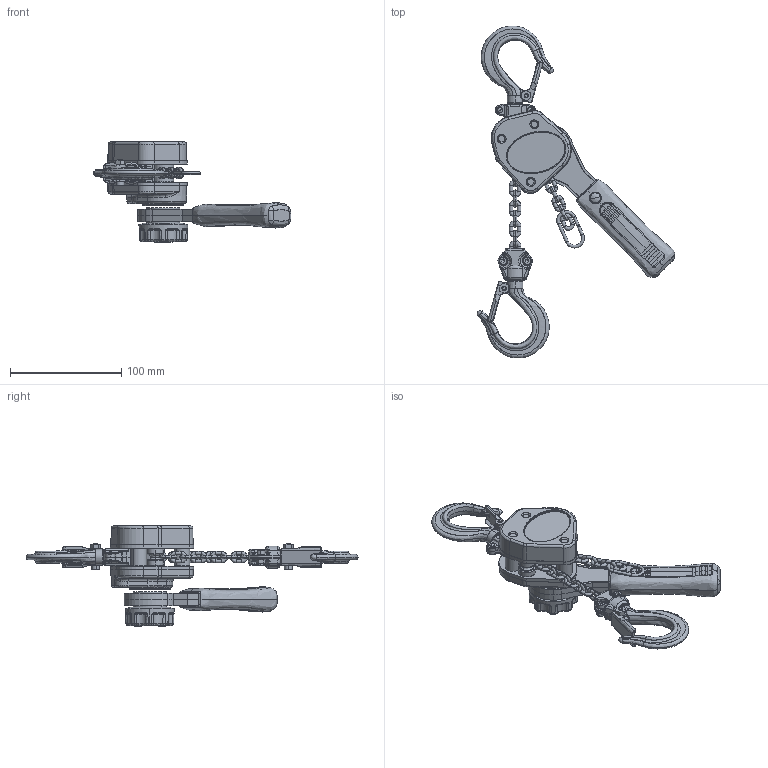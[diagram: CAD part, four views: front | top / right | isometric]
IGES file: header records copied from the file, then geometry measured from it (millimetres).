
Start section: SolidWorks IGES file using analytic representation for surfaces
Global section: file name: \\KITO-SHARE02\CAD_Standard_Design\3Dデータ\LX\L1XA003\提出データ\L1XA003.IGS; native system: SolidWorks 2010; preprocessor: SolidWorks 2010; author: h-mitsui; date: 141105.115220; units: metre
Bounding box: 177.62 x 298.4 x 90.1 mm (x, y, z)
Surface area: 82697.3 mm2 (no closed solid volume)
Topology: 0 solids, 0 shells, 1299 faces, 14506 edges, 14454 vertices
Faces by surface type: bspline 877, revolution 422
